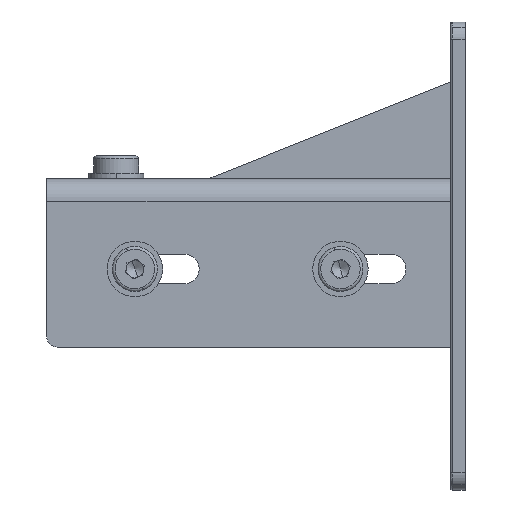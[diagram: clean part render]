
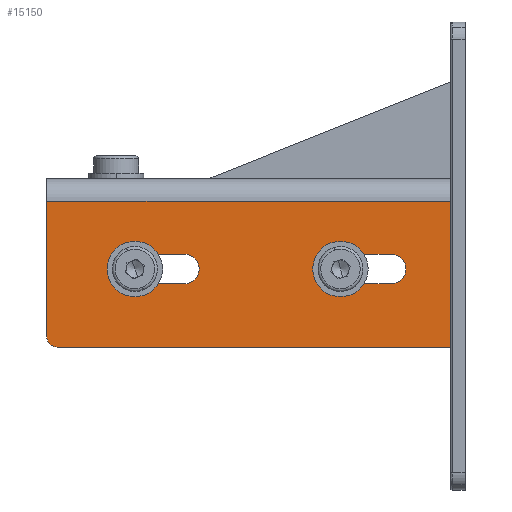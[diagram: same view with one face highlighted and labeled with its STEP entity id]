
A CAD part, left-side view. The second image highlights one B-rep face of the part: STEP entity #15150.
In plain terms, the highlighted planar face has unit normal (-1, 0, 0).
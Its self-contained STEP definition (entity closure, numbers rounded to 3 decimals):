
#303 = ORIENTED_EDGE ( 'NONE', *, *, #11103, .T. ) ;
#598 = DIRECTION ( 'NONE',  ( 0., 0.707, -0.707 ) ) ;
#611 = EDGE_CURVE ( 'NONE', #9665, #987, #12961, .T. ) ;
#822 = VERTEX_POINT ( 'NONE', #913 ) ;
#894 = VECTOR ( 'NONE', #9565, 1000. ) ;
#913 = CARTESIAN_POINT ( 'NONE',  ( 639.23, 896.455, 1262.55 ) ) ;
#987 = VERTEX_POINT ( 'NONE', #8883 ) ;
#1023 = LINE ( 'NONE', #5280, #894 ) ;
#1036 = DIRECTION ( 'NONE',  ( 1., 0., 0. ) ) ;
#1085 = CIRCLE ( 'NONE', #14742, 4.25 ) ;
#1290 = VECTOR ( 'NONE', #12905, 1000. ) ;
#1375 = CARTESIAN_POINT ( 'NONE',  ( 639.23, 822.529, 1262.55 ) ) ;
#1421 = CARTESIAN_POINT ( 'NONE',  ( 639.23, 896.455, 1271.05 ) ) ;
#1502 = CARTESIAN_POINT ( 'NONE',  ( 639.23, 882.155, 1266.8 ) ) ;
#1538 = FACE_BOUND ( 'NONE', #2815, .T. ) ;
#1691 = ORIENTED_EDGE ( 'NONE', *, *, #6321, .F. ) ;
#1814 = ORIENTED_EDGE ( 'NONE', *, *, #9744, .T. ) ;
#2005 = VERTEX_POINT ( 'NONE', #7812 ) ;
#2415 = ORIENTED_EDGE ( 'NONE', *, *, #15525, .F. ) ;
#2815 = EDGE_LOOP ( 'NONE', ( #8348, #5107, #3062, #11421 ) ) ;
#3005 = DIRECTION ( 'NONE',  ( 0., 0., 1. ) ) ;
#3059 = DIRECTION ( 'NONE',  ( 0., 0., 1. ) ) ;
#3062 = ORIENTED_EDGE ( 'NONE', *, *, #611, .T. ) ;
#3236 = VERTEX_POINT ( 'NONE', #17151 ) ;
#3662 = CARTESIAN_POINT ( 'NONE',  ( 639.23, 882.155, 1262.55 ) ) ;
#3757 = ORIENTED_EDGE ( 'NONE', *, *, #16882, .T. ) ;
#3931 = VECTOR ( 'NONE', #3059, 1000. ) ;
#3935 = DIRECTION ( 'NONE',  ( 1., 0., 0. ) ) ;
#4120 = CIRCLE ( 'NONE', #7489, 4.25 ) ;
#4192 = DIRECTION ( 'NONE',  ( 0., 0., -1. ) ) ;
#4243 = CIRCLE ( 'NONE', #14566, 4.25 ) ;
#4670 = ORIENTED_EDGE ( 'NONE', *, *, #16933, .T. ) ;
#4677 = CARTESIAN_POINT ( 'NONE',  ( 639.23, 921.87, 1293.651 ) ) ;
#4712 = CARTESIAN_POINT ( 'NONE',  ( 639.23, 921.87, 1247.3 ) ) ;
#4896 = VERTEX_POINT ( 'NONE', #10470 ) ;
#5052 = EDGE_CURVE ( 'NONE', #7804, #4896, #15651, .T. ) ;
#5107 = ORIENTED_EDGE ( 'NONE', *, *, #15942, .T. ) ;
#5143 = LINE ( 'NONE', #18379, #14487 ) ;
#5176 = CARTESIAN_POINT ( 'NONE',  ( 639.23, 863.62, 1268.976 ) ) ;
#5280 = CARTESIAN_POINT ( 'NONE',  ( 639.23, 805.37, 1286.3 ) ) ;
#5443 = DIRECTION ( 'NONE',  ( 0., 1., 0. ) ) ;
#5603 = CARTESIAN_POINT ( 'NONE',  ( 639.23, 805.37, 1244.3 ) ) ;
#5980 = VERTEX_POINT ( 'NONE', #13453 ) ;
#6120 = AXIS2_PLACEMENT_3D ( 'NONE', #6263, #12054, #598 ) ;
#6263 = CARTESIAN_POINT ( 'NONE',  ( 639.23, 918.87, 1247.3 ) ) ;
#6264 = EDGE_CURVE ( 'NONE', #18203, #12189, #10064, .T. ) ;
#6321 = EDGE_CURVE ( 'NONE', #14395, #7804, #10996, .T. ) ;
#6412 = VECTOR ( 'NONE', #9078, 1000. ) ;
#7101 = CARTESIAN_POINT ( 'NONE',  ( 639.23, 837.155, 1271.05 ) ) ;
#7489 = AXIS2_PLACEMENT_3D ( 'NONE', #14229, #17204, #10207 ) ;
#7804 = VERTEX_POINT ( 'NONE', #4712 ) ;
#7812 = CARTESIAN_POINT ( 'NONE',  ( 639.23, 882.155, 1271.05 ) ) ;
#8002 = EDGE_CURVE ( 'NONE', #12189, #14395, #12678, .T. ) ;
#8109 = DIRECTION ( 'NONE',  ( 0., 0.707, -0.707 ) ) ;
#8348 = ORIENTED_EDGE ( 'NONE', *, *, #14302, .T. ) ;
#8614 = DIRECTION ( 'NONE',  ( 0., 1., 0. ) ) ;
#8735 = DIRECTION ( 'NONE',  ( 1., 0., 0. ) ) ;
#8883 = CARTESIAN_POINT ( 'NONE',  ( 639.23, 822.529, 1271.05 ) ) ;
#9057 = CARTESIAN_POINT ( 'NONE',  ( 639.23, 918.87, 1247.3 ) ) ;
#9078 = DIRECTION ( 'NONE',  ( 0., -1., 0. ) ) ;
#9565 = DIRECTION ( 'NONE',  ( 0., 0., -1. ) ) ;
#9663 = ORIENTED_EDGE ( 'NONE', *, *, #6264, .F. ) ;
#9665 = VERTEX_POINT ( 'NONE', #7101 ) ;
#9726 = FACE_BOUND ( 'NONE', #10487, .T. ) ;
#9744 = EDGE_CURVE ( 'NONE', #11663, #822, #12983, .T. ) ;
#9867 = EDGE_CURVE ( 'NONE', #18661, #2005, #10398, .T. ) ;
#10010 = CARTESIAN_POINT ( 'NONE',  ( 639.23, 863.62, 1286.3 ) ) ;
#10064 = LINE ( 'NONE', #5603, #1290 ) ;
#10200 = CIRCLE ( 'NONE', #18733, 4.25 ) ;
#10207 = DIRECTION ( 'NONE',  ( 0., 0., 1. ) ) ;
#10287 = CARTESIAN_POINT ( 'NONE',  ( 639.23, 896.455, 1266.8 ) ) ;
#10398 = LINE ( 'NONE', #16305, #6412 ) ;
#10470 = CARTESIAN_POINT ( 'NONE',  ( 639.23, 921.87, 1286.3 ) ) ;
#10487 = EDGE_LOOP ( 'NONE', ( #1814, #303, #18157, #3757 ) ) ;
#10682 = CARTESIAN_POINT ( 'NONE',  ( 639.23, 805.37, 1244.3 ) ) ;
#10713 = DIRECTION ( 'NONE',  ( 0., 1., 0. ) ) ;
#10996 = CIRCLE ( 'NONE', #6120, 3. ) ;
#11034 = DIRECTION ( 'NONE',  ( 0., 1., 0. ) ) ;
#11103 = EDGE_CURVE ( 'NONE', #822, #18661, #10200, .T. ) ;
#11421 = ORIENTED_EDGE ( 'NONE', *, *, #11963, .T. ) ;
#11551 = DIRECTION ( 'NONE',  ( 0., -1., 0. ) ) ;
#11570 = CARTESIAN_POINT ( 'NONE',  ( 639.23, 872.888, 1262.55 ) ) ;
#11663 = VERTEX_POINT ( 'NONE', #3662 ) ;
#11921 = CARTESIAN_POINT ( 'NONE',  ( 639.23, 918.87, 1244.3 ) ) ;
#11942 = ORIENTED_EDGE ( 'NONE', *, *, #5052, .F. ) ;
#11963 = EDGE_CURVE ( 'NONE', #987, #13860, #4120, .T. ) ;
#12054 = DIRECTION ( 'NONE',  ( 1., 0., 0. ) ) ;
#12189 = VERTEX_POINT ( 'NONE', #11921 ) ;
#12678 = CIRCLE ( 'NONE', #13615, 3. ) ;
#12905 = DIRECTION ( 'NONE',  ( 0., 1., 0. ) ) ;
#12915 = FACE_OUTER_BOUND ( 'NONE', #16447, .T. ) ;
#12961 = LINE ( 'NONE', #14690, #18768 ) ;
#12983 = LINE ( 'NONE', #11570, #15545 ) ;
#13150 = ORIENTED_EDGE ( 'NONE', *, *, #8002, .F. ) ;
#13352 = AXIS2_PLACEMENT_3D ( 'NONE', #5176, #15361, #5443 ) ;
#13453 = CARTESIAN_POINT ( 'NONE',  ( 639.23, 837.155, 1262.55 ) ) ;
#13615 = AXIS2_PLACEMENT_3D ( 'NONE', #9057, #1036, #8109 ) ;
#13860 = VERTEX_POINT ( 'NONE', #1375 ) ;
#14229 = CARTESIAN_POINT ( 'NONE',  ( 639.23, 822.529, 1266.8 ) ) ;
#14302 = EDGE_CURVE ( 'NONE', #13860, #5980, #5143, .T. ) ;
#14395 = VERTEX_POINT ( 'NONE', #17515 ) ;
#14487 = VECTOR ( 'NONE', #11034, 1000. ) ;
#14566 = AXIS2_PLACEMENT_3D ( 'NONE', #15299, #3935, #18081 ) ;
#14690 = CARTESIAN_POINT ( 'NONE',  ( 639.23, 850.388, 1271.05 ) ) ;
#14742 = AXIS2_PLACEMENT_3D ( 'NONE', #1502, #8735, #3005 ) ;
#15073 = VECTOR ( 'NONE', #8614, 1000. ) ;
#15150 = ADVANCED_FACE ( 'NONE', ( #9726, #1538, #12915 ), #18328, .T. ) ;
#15299 = CARTESIAN_POINT ( 'NONE',  ( 639.23, 837.155, 1266.8 ) ) ;
#15361 = DIRECTION ( 'NONE',  ( -1., 0., 0. ) ) ;
#15525 = EDGE_CURVE ( 'NONE', #3236, #18203, #1023, .T. ) ;
#15545 = VECTOR ( 'NONE', #10713, 1000. ) ;
#15651 = LINE ( 'NONE', #4677, #3931 ) ;
#15931 = LINE ( 'NONE', #10010, #15073 ) ;
#15942 = EDGE_CURVE ( 'NONE', #5980, #9665, #4243, .T. ) ;
#16012 = DIRECTION ( 'NONE',  ( 1., 0., 0. ) ) ;
#16305 = CARTESIAN_POINT ( 'NONE',  ( 639.23, 880.038, 1271.05 ) ) ;
#16447 = EDGE_LOOP ( 'NONE', ( #13150, #9663, #2415, #4670, #11942, #1691 ) ) ;
#16882 = EDGE_CURVE ( 'NONE', #2005, #11663, #1085, .T. ) ;
#16933 = EDGE_CURVE ( 'NONE', #3236, #4896, #15931, .T. ) ;
#17151 = CARTESIAN_POINT ( 'NONE',  ( 639.23, 805.37, 1286.3 ) ) ;
#17204 = DIRECTION ( 'NONE',  ( 1., 0., 0. ) ) ;
#17515 = CARTESIAN_POINT ( 'NONE',  ( 639.23, 920.992, 1245.179 ) ) ;
#18081 = DIRECTION ( 'NONE',  ( 0., 0., -1. ) ) ;
#18157 = ORIENTED_EDGE ( 'NONE', *, *, #9867, .T. ) ;
#18203 = VERTEX_POINT ( 'NONE', #10682 ) ;
#18328 = PLANE ( 'NONE',  #13352 ) ;
#18379 = CARTESIAN_POINT ( 'NONE',  ( 639.23, 843.074, 1262.55 ) ) ;
#18661 = VERTEX_POINT ( 'NONE', #1421 ) ;
#18733 = AXIS2_PLACEMENT_3D ( 'NONE', #10287, #16012, #4192 ) ;
#18768 = VECTOR ( 'NONE', #11551, 1000. ) ;
